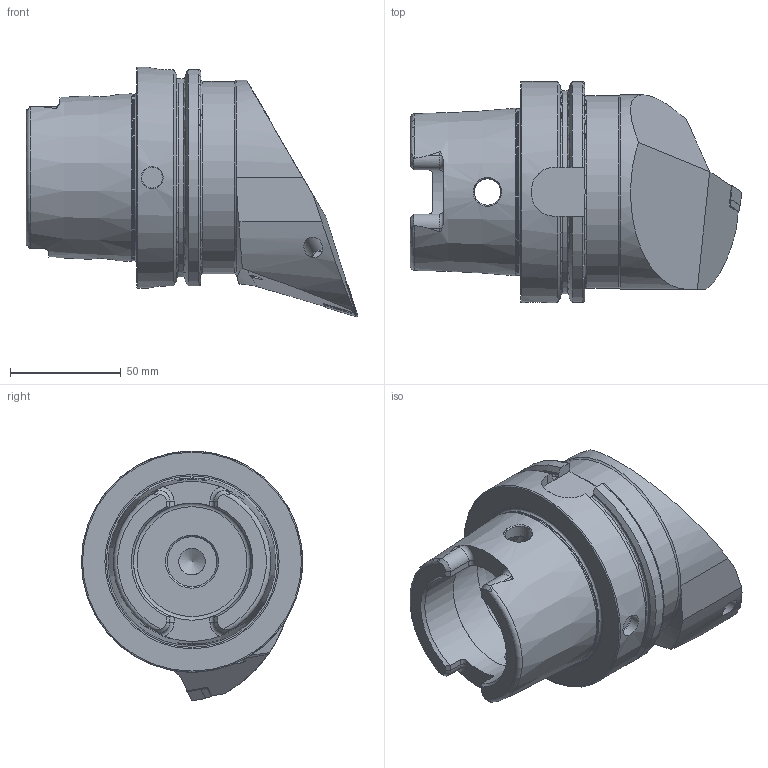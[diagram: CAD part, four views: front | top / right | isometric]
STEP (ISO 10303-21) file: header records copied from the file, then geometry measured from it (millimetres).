
FILE_DESCRIPTION (( 'STEP AP214' ), '1' );
FILE_NAME ('HA0.PDF.RHA.100-HP.STEP', '2020-10-13T12:51:00', ( '' ), ( '' ), 'SwSTEP 2.0', 'SolidWorks 2017', '' );
FILE_SCHEMA (( 'AUTOMOTIVE_DESIGN' ));
Length unit declared in the file: millimetre
Products named in the file (14): ISO 8752 2x8; CHP-ER1.008.014_A; CHP-ER1.015.006_A; WCD-ER1.101.000; HA0-PDF.RHA.100-HP_A_Fertigbearbeitung; WDF-ER3.101.000_A; DNMG150604; DIN 7991 - M5x15; DIN 3771 - 13x1; WDF-ER2.101.003_A; WCD-ER4.101.017_A; KVT_MB_600_060; HA0.PDF.RHA.100-HP; CHP-ER1.015.006
Assembly tree (13 placements, depth 3):
  HA0.PDF.RHA.100-HP
    HA0-PDF.RHA.100-HP_A_Fertigbearbeitung
    KVT_MB_600_060
    DNMG150604
    WDF-ER2.101.003_A
    WCD-ER4.101.017_A
    WDF-ER3.101.000_A
    CHP-ER1.008.014_A
    CHP-ER1.015.006
      CHP-ER1.015.006_A
      DIN 3771 - 13x1
      DIN 7991 - M5x15
    ISO 8752 2x8
    WCD-ER1.101.000
Bounding box: 149.9 x 100 x 113 mm (x, y, z)
Volume: 523978.5 mm3; surface area: 73443.4 mm2
Topology: 13 solids, 13 shells, 383 faces, 942 edges, 583 vertices
Faces by surface type: plane 156, cylinder 92, cone 84, torus 36, bspline 14, sphere 1
Full cylindrical faces by diameter (mm): 2 x1, 2.5 x1, 3 x1, 3.55 x1, 4.2 x2, 4.7 x1, 5 x5, 5.16 x1, 5.2 x1, 5.5 x1, 6 x3, 6.4 x2, 7 x2, 7.9 x2, 8 x2, 8.4 x1, 10 x2, 12 x3, 13.4 x1, 15 x4, 22.5 x1, 26 x1, 53 x2, 63 x1, 75.265 x1, 87 x1, 100 x1
Entity records: 14300 total; most frequent: CARTESIAN_POINT 4585, DIRECTION 1651, ORIENTED_EDGE 1580, EDGE_CURVE 790, AXIS2_PLACEMENT_3D 665, VERTEX_POINT 551, EDGE_LOOP 523, FACE_OUTER_BOUND 443
